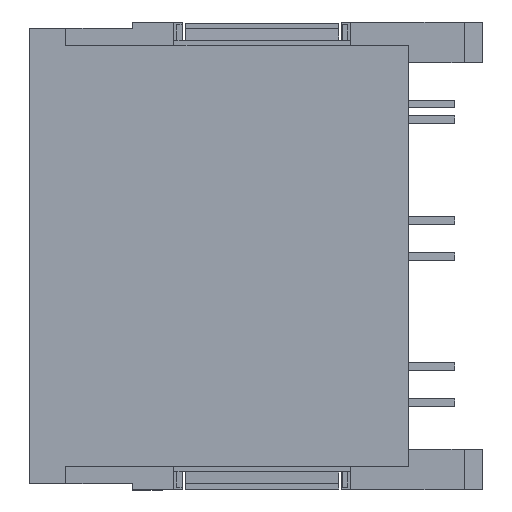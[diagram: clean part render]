
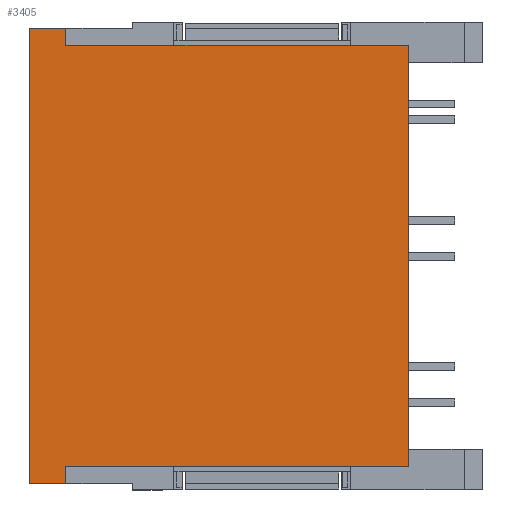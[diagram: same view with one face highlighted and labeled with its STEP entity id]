
A CAD part, top view. The second image highlights one B-rep face of the part: STEP entity #3405.
In plain terms, the highlighted planar face has unit normal (0, 0, 1).
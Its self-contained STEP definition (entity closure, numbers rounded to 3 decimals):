
#3376=AXIS2_PLACEMENT_3D('Plane Axis2P3D',#3373,#3374,#3375) ;
#420=CARTESIAN_POINT('Vertex',(-13.,3.25,5.7)) ;
#423=CARTESIAN_POINT('Line Origine',(-3.5,3.25,5.7)) ;
#427=CARTESIAN_POINT('Vertex',(6.,3.25,5.7)) ;
#872=CARTESIAN_POINT('Vertex',(6.,-20.1,5.7)) ;
#875=CARTESIAN_POINT('Line Origine',(-3.5,-20.1,5.7)) ;
#879=CARTESIAN_POINT('Vertex',(-13.,-20.1,5.7)) ;
#1633=CARTESIAN_POINT('Line Origine',(6.,-8.425,5.7)) ;
#2550=CARTESIAN_POINT('Vertex',(-15.,-21.05,5.7)) ;
#2553=CARTESIAN_POINT('Line Origine',(-15.,-8.425,5.7)) ;
#2557=CARTESIAN_POINT('Vertex',(-15.,4.2,5.7)) ;
#3211=CARTESIAN_POINT('Vertex',(-13.,4.2,5.7)) ;
#3214=CARTESIAN_POINT('Line Origine',(-13.,3.725,5.7)) ;
#3373=CARTESIAN_POINT('Axis2P3D Location',(0.,-25.675,5.7)) ;
#3378=CARTESIAN_POINT('Line Origine',(-14.,4.2,5.7)) ;
#3383=CARTESIAN_POINT('Line Origine',(-14.,-21.05,5.7)) ;
#3387=CARTESIAN_POINT('Vertex',(-13.,-21.05,5.7)) ;
#3390=CARTESIAN_POINT('Line Origine',(-13.,-20.575,5.7)) ;
#424=DIRECTION('Vector Direction',(1.,0.,0.)) ;
#876=DIRECTION('Vector Direction',(1.,0.,0.)) ;
#1634=DIRECTION('Vector Direction',(0.,1.,0.)) ;
#2554=DIRECTION('Vector Direction',(0.,1.,0.)) ;
#3215=DIRECTION('Vector Direction',(0.,1.,0.)) ;
#3374=DIRECTION('Axis2P3D Direction',(0.,0.,-1.)) ;
#3375=DIRECTION('Axis2P3D XDirection',(0.,1.,0.)) ;
#3379=DIRECTION('Vector Direction',(-1.,0.,0.)) ;
#3384=DIRECTION('Vector Direction',(1.,0.,0.)) ;
#3391=DIRECTION('Vector Direction',(0.,1.,0.)) ;
#425=VECTOR('Line Direction',#424,1.) ;
#877=VECTOR('Line Direction',#876,1.) ;
#1635=VECTOR('Line Direction',#1634,1.) ;
#2555=VECTOR('Line Direction',#2554,1.) ;
#3216=VECTOR('Line Direction',#3215,1.) ;
#3380=VECTOR('Line Direction',#3379,1.) ;
#3385=VECTOR('Line Direction',#3384,1.) ;
#3392=VECTOR('Line Direction',#3391,1.) ;
#3396=ORIENTED_EDGE('',*,*,#429,.F.) ;
#3397=ORIENTED_EDGE('',*,*,#3218,.T.) ;
#3398=ORIENTED_EDGE('',*,*,#3382,.T.) ;
#3399=ORIENTED_EDGE('',*,*,#2559,.F.) ;
#3400=ORIENTED_EDGE('',*,*,#3389,.T.) ;
#3401=ORIENTED_EDGE('',*,*,#3394,.T.) ;
#3402=ORIENTED_EDGE('',*,*,#881,.T.) ;
#3403=ORIENTED_EDGE('',*,*,#1637,.T.) ;
#3405=ADVANCED_FACE('\X2\FF8EFF9EFF83FF9EFF68FF70\X0\1',(#3404),#3377,.F.) ;
#429=EDGE_CURVE('',#421,#428,#426,.T.) ;
#881=EDGE_CURVE('',#880,#873,#878,.T.) ;
#1637=EDGE_CURVE('',#873,#428,#1636,.T.) ;
#2559=EDGE_CURVE('',#2551,#2558,#2556,.T.) ;
#3218=EDGE_CURVE('',#421,#3212,#3217,.T.) ;
#3382=EDGE_CURVE('',#3212,#2558,#3381,.T.) ;
#3389=EDGE_CURVE('',#2551,#3388,#3386,.T.) ;
#3394=EDGE_CURVE('',#3388,#880,#3393,.T.) ;
#3395=EDGE_LOOP('',(#3396,#3397,#3398,#3399,#3400,#3401,#3402,#3403)) ;
#3404=FACE_OUTER_BOUND('',#3395,.T.) ;
#426=LINE('Line',#423,#425) ;
#878=LINE('Line',#875,#877) ;
#1636=LINE('Line',#1633,#1635) ;
#2556=LINE('Line',#2553,#2555) ;
#3217=LINE('Line',#3214,#3216) ;
#3381=LINE('Line',#3378,#3380) ;
#3386=LINE('Line',#3383,#3385) ;
#3393=LINE('Line',#3390,#3392) ;
#3377=PLANE('',#3376) ;
#421=VERTEX_POINT('',#420) ;
#428=VERTEX_POINT('',#427) ;
#873=VERTEX_POINT('',#872) ;
#880=VERTEX_POINT('',#879) ;
#2551=VERTEX_POINT('',#2550) ;
#2558=VERTEX_POINT('',#2557) ;
#3212=VERTEX_POINT('',#3211) ;
#3388=VERTEX_POINT('',#3387) ;
